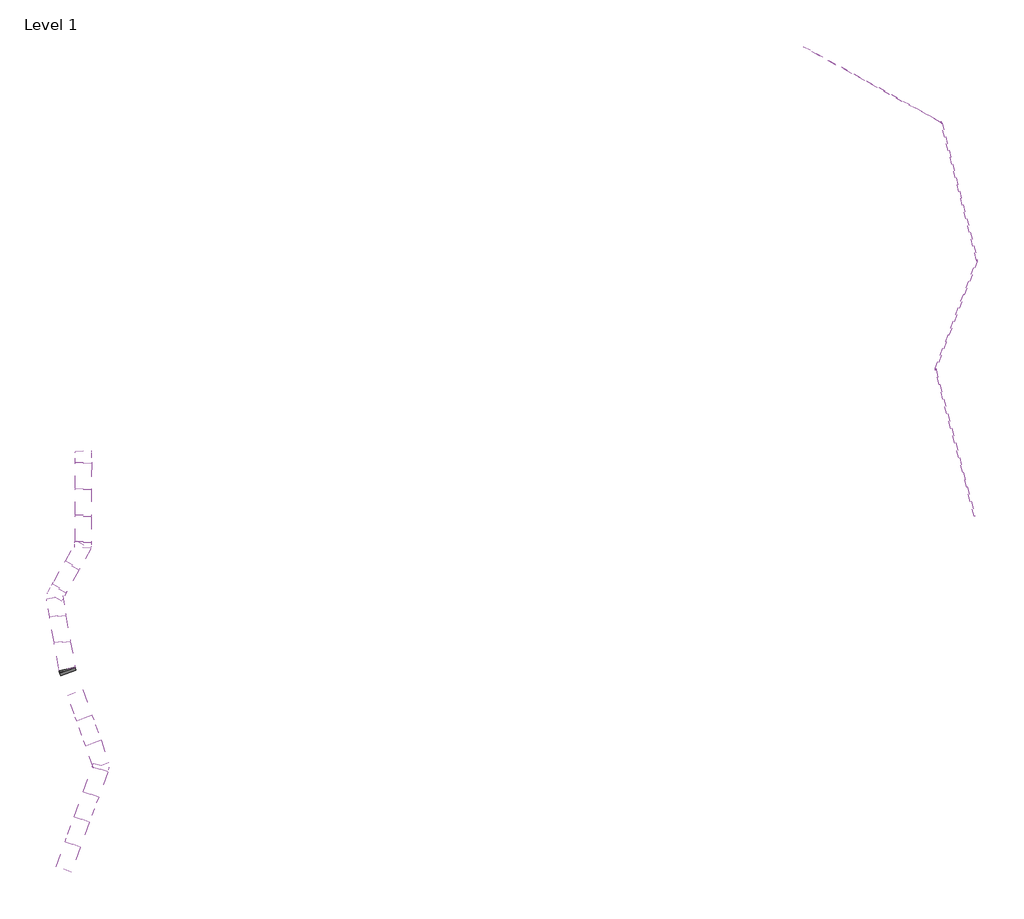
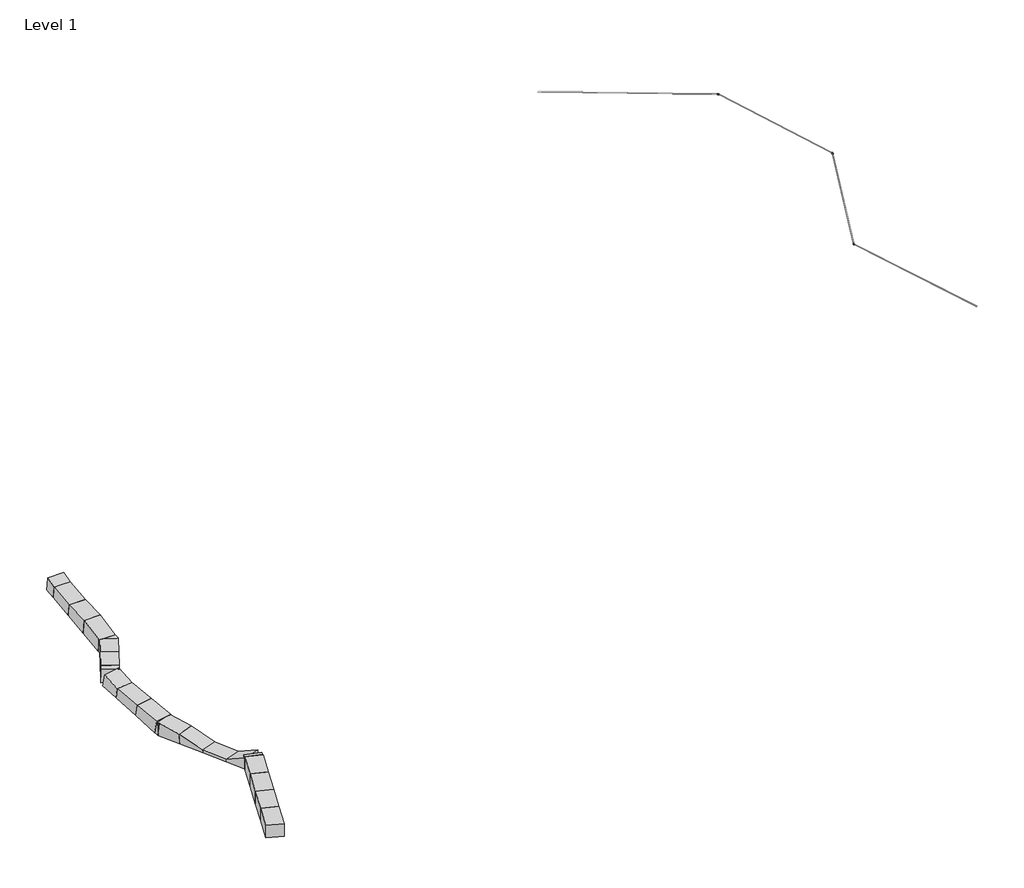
# One storey: 21 proxies, 4 pipe segments, 3 pipe fittings.
"""IFC4 building model written with IfcOpenShell, lengths in millimetres."""

import ifcopenshell
import ifcopenshell.guid

model = None  # the IFC model being written
_history = None  # IfcOwnerHistory: only IFC2X3 demands one
_inside = {}  # id of a spatial element -> (the spatial element, [elements in it])
_under = {}  # id of a project, library or spatial element -> (it, [spatial elements below it])
_declared = {}  # id of a project -> (the project, [libraries it declares])
_typed = {}  # id of a type object -> (the type object, [elements of that type])
_made_of = {}  # id of a material, layer set ... -> (it, [elements and type objects made of it])


def new_model(schema):
    """Start an empty IFC model of exactly this schema.

    Asked for "IFC4X3", IfcOpenShell would pick the latest addendum, in which some entities
    have other attributes; the version numbers below select the first issue.
    IFC2X3 requires an IfcOwnerHistory on every rooted entity: one is made here for all.
    """
    global model, _history
    if schema == "IFC4X3":
        model = ifcopenshell.file(schema_version=(4, 3, 0, 0))
    else:
        model = ifcopenshell.file(schema=schema)
    _inside.clear()
    _under.clear()
    _declared.clear()
    _typed.clear()
    _made_of.clear()
    _history = None
    if model.schema == "IFC2X3":
        org = make("IfcOrganization", Name="unknown")
        user = make(
            "IfcPersonAndOrganization",
            ThePerson=make("IfcPerson", FamilyName="unknown"),
            TheOrganization=org,
        )
        app = make(
            "IfcApplication",
            ApplicationDeveloper=org,
            Version="unknown",
            ApplicationFullName="unknown",
            ApplicationIdentifier="unknown",
        )
        _history = make(
            "IfcOwnerHistory",
            OwningUser=user,
            OwningApplication=app,
            ChangeAction="ADDED",
            CreationDate=0,
        )
    return model


def make(cls, **values):
    """One entity of the class cls with the attributes given. An attribute that is None is left unset."""
    return model.create_entity(
        cls, **{name: value for name, value in values.items() if value is not None}
    )


def rooted(cls, **values):
    """An entity with a GlobalId (a new one), such as an element, a storey or a relation."""
    return make(cls, GlobalId=ifcopenshell.guid.new(), OwnerHistory=_history, **values)


def si_unit(unit_type, name, prefix=None):
    """IfcSIUnit, for example si_unit("LENGTHUNIT", "METRE", prefix="MILLI")."""
    return make("IfcSIUnit", UnitType=unit_type, Prefix=prefix, Name=name)


def assignment(units):
    """IfcUnitAssignment: the units of a project."""
    return None if units is None else make("IfcUnitAssignment", Units=units)


def point(xyz):
    """IfcCartesianPoint."""
    return None if xyz is None else make("IfcCartesianPoint", Coordinates=xyz)


def direction(xyz):
    """IfcDirection."""
    return None if xyz is None else make("IfcDirection", DirectionRatios=xyz)


def frame(location, z_axis=None, x_axis=None):
    """IfcAxis2Placement3D, a coordinate frame: its origin and axes. An axis left out is left unset."""
    return make(
        "IfcAxis2Placement3D",
        Location=point(location),
        Axis=direction(z_axis),
        RefDirection=direction(x_axis),
    )


def frame_2d(location, x_axis=None):
    """IfcAxis2Placement2D, a coordinate frame in the plane: its origin and x axis."""
    return make(
        "IfcAxis2Placement2D", Location=point(location), RefDirection=direction(x_axis)
    )


def origin():
    """The frame at (0, 0, 0) with its axes left unset."""
    return frame((0.0, 0.0, 0.0))


def place(relative_to, where):
    """IfcLocalPlacement: puts the frame where relative to a parent placement (None: the world)."""
    return make(
        "IfcLocalPlacement", PlacementRelTo=relative_to, RelativePlacement=where
    )


def context(
    kind, dimensions, precision=None, world=None, true_north=None, identifier=None
):
    """IfcGeometricRepresentationContext, for example the 3D "Model" context."""
    return make(
        "IfcGeometricRepresentationContext",
        ContextIdentifier=identifier,
        ContextType=kind,
        CoordinateSpaceDimension=dimensions,
        Precision=precision,
        WorldCoordinateSystem=world,
        TrueNorth=true_north,
    )


def project(units=None, contexts=None):
    """IfcProject with its units and contexts."""
    return rooted(
        "IfcProject",
        Name="project",
        RepresentationContexts=contexts,
        UnitsInContext=assignment(units),
    )


def spatial(cls, under=None, at=None, **own):
    """A site, building, storey or space (cls), placed at a placement, below another one or the project."""
    s = rooted(cls, ObjectPlacement=at, **own)
    if under is not None:
        _under.setdefault(under.id(), (under, []))[1].append(s)
    return s


def polyline(points):
    """IfcPolyline through the points."""
    return make("IfcPolyline", Points=[point(p) for p in points])


def circle_curve(where, radius):
    """IfcCircle in the frame where."""
    return make("IfcCircle", Position=where, Radius=radius)


def ellipse_curve(where, semi_axis1, semi_axis2):
    """IfcEllipse in the frame where."""
    return make(
        "IfcEllipse", Position=where, SemiAxis1=semi_axis1, SemiAxis2=semi_axis2
    )


def trimmed(basis, trim1, trim2, sense, master):
    """IfcTrimmedCurve: the piece of a basis curve between two trims."""
    return make(
        "IfcTrimmedCurve",
        BasisCurve=basis,
        Trim1=trim1,
        Trim2=trim2,
        SenseAgreement=sense,
        MasterRepresentation=master,
    )


def segment(curve, same_sense, transition):
    """IfcCompositeCurveSegment."""
    return make(
        "IfcCompositeCurveSegment",
        Transition=transition,
        SameSense=same_sense,
        ParentCurve=curve,
    )


def composite_curve(segments, self_intersect=None):
    """IfcCompositeCurve: segments joined end to end."""
    return make("IfcCompositeCurve", Segments=segments, SelfIntersect=self_intersect)


def outline(outer, holes=None, kind="AREA"):
    """IfcArbitraryClosedProfileDef: a profile drawn as a closed curve; with holes, ...WithVoids."""
    if holes is None:
        return make("IfcArbitraryClosedProfileDef", ProfileType=kind, OuterCurve=outer)
    return make(
        "IfcArbitraryProfileDefWithVoids",
        ProfileType=kind,
        OuterCurve=outer,
        InnerCurves=holes,
    )


def extrude(swept, where, along, depth):
    """IfcExtrudedAreaSolid: the profile swept, set in the frame where, extruded along a direction by depth."""
    return make(
        "IfcExtrudedAreaSolid",
        SweptArea=swept,
        Position=where,
        ExtrudedDirection=direction(along),
        Depth=depth,
    )


def shape(context_of_items, identifier, shape_type, items):
    """IfcShapeRepresentation: the items that make up one representation, for example the "Body"."""
    return make(
        "IfcShapeRepresentation",
        ContextOfItems=context_of_items,
        RepresentationIdentifier=identifier,
        RepresentationType=shape_type,
        Items=items,
    )


def source(mapping_origin, context_of_items, identifier, shape_type, items):
    """IfcRepresentationMap: a shape defined once, which mapped items show again and again."""
    return make(
        "IfcRepresentationMap",
        MappingOrigin=mapping_origin,
        MappedRepresentation=shape(context_of_items, identifier, shape_type, items),
    )


def transform(
    local_origin,
    x_axis=None,
    y_axis=None,
    z_axis=None,
    scale=None,
    scale2=None,
    scale3=None,
    uniform=True,
):
    """IfcCartesianTransformationOperator3D, or its non-uniform kind. x_axis, y_axis, z_axis: its Axis1, 2, 3."""
    if uniform:
        return make(
            "IfcCartesianTransformationOperator3D",
            Axis1=direction(x_axis),
            Axis2=direction(y_axis),
            LocalOrigin=point(local_origin),
            Scale=scale,
            Axis3=direction(z_axis),
        )
    return make(
        "IfcCartesianTransformationOperator3DnonUniform",
        Axis1=direction(x_axis),
        Axis2=direction(y_axis),
        LocalOrigin=point(local_origin),
        Scale=scale,
        Axis3=direction(z_axis),
        Scale2=scale2,
        Scale3=scale3,
    )


def mapped(mapping_source, mapping_target):
    """IfcMappedItem: shows the shape of a source again, moved by a transform."""
    return make(
        "IfcMappedItem", MappingSource=mapping_source, MappingTarget=mapping_target
    )


def made_of(thing, what):
    """Note that an element or type object is made of a material, layer set ...; save() writes the relation."""
    if what is not None:
        _made_of.setdefault(what.id(), (what, []))[1].append(thing)
    return thing


def element(
    cls,
    number,
    at=None,
    inside=None,
    cuts=None,
    type_object=None,
    material=None,
    context=None,
    identifier="Body",
    shape_type=None,
    held_by="IfcProductDefinitionShape",
    body=None,
    shapes=None,
    **own,
):
    """One element of the class cls, such as IfcWall. Its Tag is "e" and its number.

    at: its placement. inside: the storey or other place that contains it. cuts: it is an
    opening in that element (IfcRelVoidsElement). A single representation is given by context,
    identifier, shape_type and body (its items); several are given by shapes. held_by: the class
    of the entity that holds the representations. save() writes the other relations.
    """
    e = rooted(cls, Tag="e%d" % number, ObjectPlacement=at, **own)
    if body is not None:
        shapes = [shape(context, identifier, shape_type, body)]
    if shapes is not None:
        e.Representation = make(held_by, Representations=shapes)
    if inside is not None:
        _inside.setdefault(inside.id(), (inside, []))[1].append(e)
    if cuts is not None:
        rooted(
            "IfcRelVoidsElement", RelatingBuildingElement=cuts, RelatedOpeningElement=e
        )
    if type_object is not None:
        _typed.setdefault(type_object.id(), (type_object, []))[1].append(e)
    return made_of(e, material)


def aggregate(whole, parts):
    """IfcRelAggregates: a whole, such as a stair, and the parts it consists of."""
    return rooted("IfcRelAggregates", RelatingObject=whole, RelatedObjects=parts)


def save(model, path):
    """Write the relations noted so far, then the file.

    IfcRelAggregates (storeys below a building ...), IfcRelContainedInSpatialStructure (elements
    in a storey), IfcRelDefinesByType, IfcRelAssociatesMaterial and IfcRelDeclares: one each for
    every whole, place, type object, material and project.
    """
    for whole, parts in _under.values():
        aggregate(whole, parts)
    for where, things in _inside.values():
        rooted(
            "IfcRelContainedInSpatialStructure",
            RelatedElements=things,
            RelatingStructure=where,
        )
    for kind, things in _typed.values():
        rooted("IfcRelDefinesByType", RelatedObjects=things, RelatingType=kind)
    for what, things in _made_of.values():
        rooted("IfcRelAssociatesMaterial", RelatedObjects=things, RelatingMaterial=what)
    for by, libraries in _declared.values():
        rooted("IfcRelDeclares", RelatingContext=by, RelatedDefinitions=libraries)
    model.write(path)


def plane_surface(at):
    """IfcPlane: the flat surface through the origin of the frame at, square to its z axis."""
    return make("IfcPlane", Position=at)


def cylinder_surface(at, radius):
    """IfcCylindricalSurface: all points at the distance radius from the z axis of the frame at."""
    return make("IfcCylindricalSurface", Position=at, Radius=radius)


def revolved_surface(curve, axis_point, axis_direction):
    """IfcSurfaceOfRevolution: the curve turned about the line through axis_point along axis_direction."""
    return make(
        "IfcSurfaceOfRevolution",
        SweptCurve=make("IfcArbitraryOpenProfileDef", ProfileType="CURVE", Curve=curve),
        AxisPosition=make("IfcAxis1Placement", Location=point(axis_point), Axis=direction(axis_direction)),
    )


def advanced_brep(points, edges, surfaces, faces):
    """IfcAdvancedBrep: a solid bounded by faces that lie on surfaces and meet in shared edges.

    An edge is (start, end): straight between two places in points (the first is 0);
    or (start, end, curve); or (start, end, curve, False) where it runs against its curve.
    A face is (place in surfaces, loops), or (place, loops, False) where it looks against
    its surface's normal. A loop lists edges by number (the first is 1), with a minus sign
    where the edge is run from its end to its start. The first loop is the outer one.
    """
    corners = [point(p) for p in points]
    vertices = [make("IfcVertexPoint", VertexGeometry=c) for c in corners]
    made = []
    for start, end, *more in edges:
        made.append(
            make(
                "IfcEdgeCurve",
                EdgeStart=vertices[start],
                EdgeEnd=vertices[end],
                EdgeGeometry=more[0] if more else make("IfcPolyline", Points=[corners[start], corners[end]]),
                SameSense=more[1] if len(more) > 1 else True,
            )
        )
    hull = []
    for where, loops, *sense in faces:
        bounds = []
        for j, loop in enumerate(loops):
            ring = [make("IfcOrientedEdge", EdgeElement=made[abs(k) - 1], Orientation=k > 0) for k in loop]
            bounds.append(
                make(
                    "IfcFaceOuterBound" if j == 0 else "IfcFaceBound",
                    Bound=make("IfcEdgeLoop", EdgeList=ring),
                    Orientation=True,
                )
            )
        hull.append(make("IfcAdvancedFace", Bounds=bounds, FaceSurface=surfaces[where], SameSense=sense[0] if sense else True))
    return make("IfcAdvancedBrep", Outer=make("IfcClosedShell", CfsFaces=hull))


def generic_models_54ab8fa8(model_context):
    return source(origin(), model_context, "Body", "SweptSolid", [
        extrude(outline(polyline([(-331.4767857, 2622.295865), (0.0, 0.0), (-2086.3173788, -263.7253057), (-2368.281057, 1966.8749035), (-331.4767857, 2622.295865)])), frame((-1524.0, 0.0, 0.0), z_axis=(1.0, 0.0, 0.0), x_axis=(0.0, 1.0, 0.0)), (0.0, 0.0, 1.0), 3048.0),
    ])


def generic_models_d54b75d8(model_context):
    return source(origin(), model_context, "Body", "SweptSolid", [
        extrude(outline(polyline([(-256.8404028, 2243.0412163), (0.0, 0.0), (-4967.5401245, -568.8103265), (-5225.5335692, 1684.3006468), (-256.8404028, 2243.0412163)])), frame((-1524.0, 0.0, 0.0), z_axis=(1.0, 0.0, 0.0), x_axis=(0.0, 1.0, 0.0)), (0.0, 0.0, 1.0), 3048.0),
    ])


def generic_models_1954e40d(model_context):
    return source(origin(), model_context, "Body", "SweptSolid", [
        extrude(outline(polyline([(-257.9934447, 2253.1109733), (0.0, 0.0), (-4967.5401245, -568.8103265), (-5290.7636538, 2253.9686847), (-257.9934447, 2253.1109733)])), frame((-1524.0, 0.0, 0.0), z_axis=(1.0, 0.0, 0.0), x_axis=(0.0, 1.0, 0.0)), (0.0, 0.0, 1.0), 3048.0),
    ])


def generic_models_49b288b9(model_context):
    return source(origin(), model_context, "Body", "SweptSolid", [
        extrude(outline(polyline([(-323.2235293, 2822.7790112), (0.0, 0.0), (-4967.5401245, -568.8103265), (-5241.4069366, 1822.9261002), (-323.2235293, 2822.7790112)])), frame((-1524.0, 0.0, 0.0), z_axis=(1.0, 0.0, 0.0), x_axis=(0.0, 1.0, 0.0)), (0.0, 0.0, 1.0), 3048.0),
    ])


def generic_models_2d732e18(model_context):
    return source(origin(), model_context, "Body", "SweptSolid", [
        extrude(outline(polyline([(-232.8523237, 2391.6952453), (0.0, 0.0), (-956.6547775, -93.138659), (-1198.5912504, 2391.8625759), (-232.8523237, 2391.6952453)])), frame((-1524.0, 0.0, 0.0), z_axis=(1.0, 0.0, 0.0), x_axis=(0.0, 1.0, 0.0)), (0.0, 0.0, 1.0), 3048.0),
    ])


def generic_models_86367620(model_context):
    return source(origin(), model_context, "Body", "SweptSolid", [
        extrude(outline(polyline([(350.5223057, 2477.5251592), (0.0, 0.0), (-4242.5772274, 600.2433301), (-3928.004332, 2823.6746213), (350.5223057, 2477.5251592)])), frame((-1524.0, 0.0, 0.0), z_axis=(1.0, 0.0, 0.0), x_axis=(0.0, 1.0, 0.0)), (0.0, 0.0, 1.0), 3048.0),
    ])


def generic_models_b21d599f(model_context):
    return source(origin(), model_context, "Body", "SweptSolid", [
        extrude(outline(polyline([(322.8120898, 2223.2237037), (0.0, 0.0), (-4948.1114547, 718.4658012), (-4629.430297, 2913.2395599), (322.8120898, 2223.2237037)])), frame((-1524.0, 0.0, 0.0), z_axis=(1.0, 0.0, 0.0), x_axis=(0.0, 1.0, 0.0)), (0.0, 0.0, 1.0), 3048.0),
    ])


def generic_models_7f9f14d9(model_context):
    return source(origin(), model_context, "Body", "SweptSolid", [
        extrude(outline(polyline([(297.1975401, 2207.4614339), (0.0, 0.0), (-1755.5764216, 236.3588264), (-1427.6552062, 2672.0231198), (297.1975401, 2207.4614339)])), frame((-1524.0, 0.0, 0.0), z_axis=(1.0, 0.0, 0.0), x_axis=(0.0, 1.0, 0.0)), (0.0, 0.0, 1.0), 3048.0),
    ])


def generic_models_52e6286f(model_context):
    return source(origin(), model_context, "Body", "SweptSolid", [
        extrude(outline(polyline([(-402.0046557, 2418.8475547), (0.0, 0.0), (-3413.039822, -567.2362014), (-3741.9064263, 1411.542328), (-402.0046557, 2418.8475547)])), frame((-1524.0, 0.0, 0.0), z_axis=(1.0, 0.0, 0.0), x_axis=(0.0, 1.0, 0.0)), (0.0, 0.0, 1.0), 3048.0),
    ])


def generic_models_ac65de91(model_context):
    return source(origin(), model_context, "Body", "SweptSolid", [
        extrude(outline(polyline([(-338.2524365, 1970.9361102), (0.0, 0.0), (-4927.9539369, -845.736408), (-5302.5781994, 1337.1317905), (-338.2524365, 1970.9361102)])), frame((-1524.0, 0.0, 0.0), z_axis=(1.0, 0.0, 0.0), x_axis=(0.0, 1.0, 0.0)), (0.0, 0.0, 1.0), 3048.0),
    ])


def generic_models_e7ead3ed(model_context):
    return source(origin(), model_context, "Body", "SweptSolid", [
        extrude(outline(polyline([(-374.6242625, 2182.8681986), (0.0, 0.0), (-4927.9539369, -845.736408), (-5355.5962937, 1646.0586899), (-374.6242625, 2182.8681986)])), frame((-1524.0, 0.0, 0.0), z_axis=(1.0, 0.0, 0.0), x_axis=(0.0, 1.0, 0.0)), (0.0, 0.0, 1.0), 3048.0),
    ])


def generic_models_1521c593(model_context):
    return source(origin(), model_context, "Body", "SweptSolid", [
        extrude(outline(polyline([(-369.727485, 2501.1318773), (0.0, 0.0), (-714.1885188, -105.5742511), (-1073.02233, 2321.8641201), (-369.727485, 2501.1318773)])), frame((-1524.0, 0.0, 0.0), z_axis=(1.0, 0.0, 0.0), x_axis=(0.0, 1.0, 0.0)), (0.0, 0.0, 1.0), 3048.0),
    ])


def generic_models_a66134e2(model_context):
    return source(origin(), model_context, "Body", "SweptSolid", [
        extrude(outline(polyline([(230.102777, 2597.2198811), (0.0, 0.0), (-4521.0140052, 400.5428593), (-4353.4765722, 2291.5741526), (230.102777, 2597.2198811)])), frame((-1524.0, 0.0, 0.0), z_axis=(1.0, 0.0, 0.0), x_axis=(0.0, 1.0, 0.0)), (0.0, 0.0, 1.0), 3048.0),
    ])


def generic_models_5df4b443(model_context):
    return source(origin(), model_context, "Body", "SweptSolid", [
        extrude(outline(polyline([(174.9242437, 1890.9973148), (0.0, 0.0), (-4978.7439903, 460.5522282), (-4923.1197344, 1061.8714981), (174.9242437, 1890.9973148)])), frame((-1524.0, 0.0, 0.0), z_axis=(1.0, 0.0, 0.0), x_axis=(0.0, 1.0, 0.0)), (0.0, 0.0, 1.0), 3048.0),
    ])


def generic_models_5d5d0a57(model_context):
    return source(origin(), model_context, "Body", "SweptSolid", [
        extrude(outline(polyline([(55.6242559, 601.3192699), (0.0, 0.0), (-4978.7439903, 460.5522282), (-4935.6205658, 926.7327772), (55.6242559, 601.3192699)])), frame((-1524.0, 0.0, 0.0), z_axis=(1.0, 0.0, 0.0), x_axis=(0.0, 1.0, 0.0)), (0.0, 0.0, 1.0), 3048.0),
    ])


def generic_models_859ffe06(model_context):
    return source(origin(), model_context, "Body", "SweptSolid", [
        extrude(outline(polyline([(42.6700904, 466.4806596), (0.0, 0.0), (-4473.9479134, 409.2426081), (-4260.1759958, 2746.2534808), (42.6700904, 466.4806596)])), frame((-1524.0, 0.0, 0.0), z_axis=(1.0, 0.0, 0.0), x_axis=(0.0, 1.0, 0.0)), (0.0, 0.0, 1.0), 3048.0),
    ])


def generic_models_05e171b5(model_context):
    return source(origin(), model_context, "Body", "SweptSolid", [
        extrude(outline(polyline([(25.4772737, 2471.8799229), (0.0, 0.0), (-744.2565307, 7.6709338), (-717.9353468, 2561.4294921), (25.4772737, 2471.8799229)])), frame((-1524.0, 0.0, 0.0), z_axis=(1.0, 0.0, 0.0), x_axis=(0.0, 1.0, 0.0)), (0.0, 0.0, 1.0), 3048.0),
    ])


def generic_models_48de9235(model_context):
    return source(origin(), model_context, "Body", "SweptSolid", [
        extrude(outline(polyline([(5.6455658, 2554.2775402), (0.0, 0.0), (-4999.9877947, 11.0511719), (-4994.3664356, 2554.3766569), (5.6455658, 2554.2775402)])), frame((-1524.0, 0.0, 0.0), z_axis=(1.0, 0.0, 0.0), x_axis=(0.0, 1.0, 0.0)), (0.0, 0.0, 1.0), 3048.0),
    ])


def generic_models_ed149499(model_context):
    return source(origin(), model_context, "Body", "SweptSolid", [
        extrude(outline(polyline([(5.6213592, 2543.3254849), (0.0, 0.0), (-4999.9877947, 11.0511719), (-4994.3906292, 2543.4304919), (5.6213592, 2543.3254849)])), frame((-1524.0, 0.0, 0.0), z_axis=(1.0, 0.0, 0.0), x_axis=(0.0, 1.0, 0.0)), (0.0, 0.0, 1.0), 3048.0),
    ])


def generic_models_5c436288(model_context):
    return source(origin(), model_context, "Body", "SweptSolid", [
        extrude(outline(polyline([(5.5971655, 2532.3793199), (0.0, 0.0), (-4999.9877947, 11.0511719), (-4994.41481, 2532.4901273), (5.5971655, 2532.3793199)])), frame((-1524.0, 0.0, 0.0), z_axis=(1.0, 0.0, 0.0), x_axis=(0.0, 1.0, 0.0)), (0.0, 0.0, 1.0), 3048.0),
    ])


def generic_models_79558771(model_context):
    return source(origin(), model_context, "Body", "SweptSolid", [
        extrude(outline(polyline([(5.5729847, 2521.4389553), (0.0, 0.0), (-4999.9877947, 11.0511719), (-4994.4389783, 2521.555473), (5.5729847, 2521.4389553)])), frame((-1524.0, 0.0, 0.0), z_axis=(1.0, 0.0, 0.0), x_axis=(0.0, 1.0, 0.0)), (0.0, 0.0, 1.0), 3048.0),
    ])


def m_elbow_pvc_sch_40_standard_e77ed494(model_context):
    return source(origin(), model_context, "Body", "AdvancedBrep", [
        advanced_brep(
        [(-177.8, -92.075, 0.0), (-177.8, 92.075, 0.0), (-88.9, -92.075, 0.0), (-88.9, 92.075, 0.0), (-6.4070482, 127.8278739, 0.0), (127.9739502, 1.9192969, 0.0), (188.7574012, 66.7928823, 0.0), (54.3764028, 192.7014594, 0.0)],
        [
            (0, 1, circle_curve(frame((-177.8, 0.0, 0.0), z_axis=(-1.0, 0.0, 0.0), x_axis=(0.0, 1.0, 0.0)), 92.075)),
            (1, 0, circle_curve(frame((-177.8, 0.0, 0.0), z_axis=(-1.0, 0.0, 0.0), x_axis=(0.0, 1.0, 0.0)), 92.075)),
            (0, 2),
            (2, 3, circle_curve(frame((-88.9, 0.0, 0.0), z_axis=(-1.0, 0.0, 0.0), x_axis=(0.0, 1.0, 0.0)), 92.075)),
            (3, 1),
            (3, 2, circle_curve(frame((-88.9, 0.0, 0.0), z_axis=(-1.0, 0.0, 0.0), x_axis=(0.0, 1.0, 0.0)), 92.075)),
            (4, 3, circle_curve(frame((-88.9, 205.1198297, 0.0), z_axis=(0.0, 0.0, -1.0), x_axis=(0.0, -1.0, 0.0)), 113.0448297)),
            (2, 5, circle_curve(frame((-88.9, 205.1198297, 0.0), z_axis=(0.0, 0.0, 1.0), x_axis=(0.0, -1.0, 0.0)), 297.1948297)),
            (5, 4, circle_curve(frame((60.783451, 64.8735854, 0.0), z_axis=(-0.6837283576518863, -0.7297366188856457, 0.0), x_axis=(-0.7297366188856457, 0.6837283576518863, 0.0)), 92.075)),
            (4, 5, circle_curve(frame((60.783451, 64.8735854, 0.0), z_axis=(-0.6837283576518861, -0.729736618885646, 0.0), x_axis=(-0.729736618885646, 0.6837283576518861, 0.0)), 92.075)),
            (6, 7, circle_curve(frame((121.566902, 129.7471708, 0.0), z_axis=(0.6837283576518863, 0.7297366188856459, 0.0), x_axis=(-0.7297366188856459, 0.6837283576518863, 0.0)), 92.075)),
            (7, 6, circle_curve(frame((121.566902, 129.7471708, 0.0), z_axis=(0.6837283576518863, 0.7297366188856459, 0.0), x_axis=(-0.7297366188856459, 0.6837283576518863, 0.0)), 92.075)),
            (5, 6),
            (7, 4),
        ],
        [
            plane_surface(frame((-177.8, 0.0, 0.0), z_axis=(-1.0, 0.0, 0.0), x_axis=(0.0, 0.0, 1.0))),
            cylinder_surface(frame((-177.8, 0.0, 0.0), z_axis=(-1.0, 0.0, 0.0), x_axis=(0.0, 1.0, 0.0)), 92.075),
            revolved_surface(trimmed(ellipse_curve(frame((-88.9, 0.0, 0.0), z_axis=(-1.0, 0.0, 0.0), x_axis=(0.0, 1.0, 0.0)), 92.075, 92.075), [point((-88.9, -92.075, 0.0))], [point((-88.9, 92.075, 0.0))], True, "CARTESIAN"), (-88.9, 205.1198297, 0.0), (0.0, 0.0, 1.0)),
            revolved_surface(trimmed(ellipse_curve(frame((-88.9, 0.0, 0.0), z_axis=(-1.0, 0.0, 0.0), x_axis=(0.0, 1.0, 0.0)), 92.075, 92.075), [point((-88.9, 92.075, 0.0))], [point((-88.9, -92.075, 0.0))], True, "CARTESIAN"), (-88.9, 205.1198297, 0.0), (0.0, 0.0, 1.0)),
            plane_surface(frame((121.566902, 129.7471708, 0.0), z_axis=(0.6837283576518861, 0.729736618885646, 0.0), x_axis=(0.0, 0.0, 1.0))),
            cylinder_surface(frame((60.783451, 64.8735854, 0.0), z_axis=(-0.6837283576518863, -0.7297366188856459, 0.0), x_axis=(-0.7297366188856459, 0.6837283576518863, 0.0)), 92.075),
        ],
        [
            (0, [[1, 2]]),
            (1, [[-1, 3, 4, 5]]),
            (1, [[-2, -5, 6, -3]]),
            (2, [[7, -4, 8, 9]]),
            (3, [[-8, -6, -7, 10]]),
            (4, [[11, 12]]),
            (5, [[-9, 13, -12, 14]]),
            (5, [[-10, -14, -11, -13]]),
        ],
    ),
    ])


def m_elbow_pvc_sch_40_standard_4b98759f(model_context):
    return source(origin(), model_context, "Body", "AdvancedBrep", [
        advanced_brep(
        [(-133.35, -92.075, 0.0), (-133.35, 92.075, 0.0), (-44.45, -92.075, 0.0), (-44.45, 92.075, 0.0), (-20.4013945, 100.1867817, 0.0), (91.1384438, -46.3399633, 0.0), (161.875493, 7.5068552, 0.0), (50.3356548, 154.0336002, 0.0)],
        [
            (0, 1, circle_curve(frame((-133.35, 0.0, 0.0), z_axis=(-1.0, 0.0, 0.0), x_axis=(0.0, 1.0, 0.0)), 92.075)),
            (1, 0, circle_curve(frame((-133.35, 0.0, 0.0), z_axis=(-1.0, 0.0, 0.0), x_axis=(0.0, 1.0, 0.0)), 92.075)),
            (0, 2),
            (2, 3, circle_curve(frame((-44.45, 0.0, 0.0), z_axis=(-1.0, 0.0, 0.0), x_axis=(0.0, 1.0, 0.0)), 92.075)),
            (3, 1),
            (3, 2, circle_curve(frame((-44.45, 0.0, 0.0), z_axis=(-1.0, 0.0, 0.0), x_axis=(0.0, 1.0, 0.0)), 92.075)),
            (4, 3, circle_curve(frame((-44.45, 131.7787577, 0.0), z_axis=(0.0, 0.0, -1.0), x_axis=(0.0, -1.0, 0.0)), 39.7037577)),
            (2, 5, circle_curve(frame((-44.45, 131.7787577, 0.0), z_axis=(0.0, 0.0, 1.0), x_axis=(0.0, -1.0, 0.0)), 223.8537577)),
            (5, 4, circle_curve(frame((35.3685246, 26.9234092, 0.0), z_axis=(-0.7956923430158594, -0.6057009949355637, 0.0), x_axis=(-0.6057009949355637, 0.7956923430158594, 0.0)), 92.075)),
            (4, 5, circle_curve(frame((35.3685246, 26.9234092, 0.0), z_axis=(-0.7956923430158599, -0.6057009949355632, 0.0), x_axis=(-0.6057009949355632, 0.7956923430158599, 0.0)), 92.075)),
            (6, 7, circle_curve(frame((106.1055739, 80.7702277, 0.0), z_axis=(0.7956923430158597, 0.6057009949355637, 0.0), x_axis=(-0.6057009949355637, 0.7956923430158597, 0.0)), 92.075)),
            (7, 6, circle_curve(frame((106.1055739, 80.7702277, 0.0), z_axis=(0.7956923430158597, 0.6057009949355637, 0.0), x_axis=(-0.6057009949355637, 0.7956923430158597, 0.0)), 92.075)),
            (5, 6),
            (7, 4),
        ],
        [
            plane_surface(frame((-133.35, 0.0, 0.0), z_axis=(-1.0, 0.0, 0.0), x_axis=(0.0, 0.0, 1.0))),
            cylinder_surface(frame((-133.35, 0.0, 0.0), z_axis=(-1.0, 0.0, 0.0), x_axis=(0.0, 1.0, 0.0)), 92.075),
            revolved_surface(trimmed(ellipse_curve(frame((-44.45, 0.0, 0.0), z_axis=(-1.0, 0.0, 0.0), x_axis=(0.0, 1.0, 0.0)), 92.075, 92.075), [point((-44.45, -92.075, 0.0))], [point((-44.45, 92.075, 0.0))], True, "CARTESIAN"), (-44.45, 131.7787577, 0.0), (0.0, 0.0, 1.0)),
            revolved_surface(trimmed(ellipse_curve(frame((-44.45, 0.0, 0.0), z_axis=(-1.0, 0.0, 0.0), x_axis=(0.0, 1.0, 0.0)), 92.075, 92.075), [point((-44.45, 92.075, 0.0))], [point((-44.45, -92.075, 0.0))], True, "CARTESIAN"), (-44.45, 131.7787577, 0.0), (0.0, 0.0, 1.0)),
            plane_surface(frame((106.1055739, 80.7702277, 0.0), z_axis=(0.7956923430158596, 0.6057009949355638, 0.0), x_axis=(0.0, 0.0, 1.0))),
            cylinder_surface(frame((35.3685246, 26.9234092, 0.0), z_axis=(-0.7956923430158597, -0.6057009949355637, 0.0), x_axis=(-0.6057009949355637, 0.7956923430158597, 0.0)), 92.075),
        ],
        [
            (0, [[1, 2]]),
            (1, [[-1, 3, 4, 5]]),
            (1, [[-2, -5, 6, -3]]),
            (2, [[7, -4, 8, 9]]),
            (3, [[-8, -6, -7, 10]]),
            (4, [[11, 12]]),
            (5, [[-9, 13, -12, 14]]),
            (5, [[-10, -14, -11, -13]]),
        ],
    ),
    ])


def m_elbow_pvc_sch_40_standard_30eb8c42(model_context):
    return source(origin(), model_context, "Body", "AdvancedBrep", [
        advanced_brep(
        [(-133.35, -92.075, 0.0), (-133.35, 92.075, 0.0), (-44.45, -92.075, 0.0), (-44.45, 92.075, 0.0), (-20.8933516, 100.0853435, 0.0), (91.3650055, -45.8916539, 0.0), (161.8366594, 8.3020358, 0.0), (49.5783023, 154.2790331, 0.0)],
        [
            (0, 1, circle_curve(frame((-133.35, 0.0, 0.0), z_axis=(-1.0, 0.0, 0.0), x_axis=(0.0, 1.0, 0.0)), 92.075)),
            (1, 0, circle_curve(frame((-133.35, 0.0, 0.0), z_axis=(-1.0, 0.0, 0.0), x_axis=(0.0, 1.0, 0.0)), 92.075)),
            (0, 2),
            (2, 3, circle_curve(frame((-44.45, 0.0, 0.0), z_axis=(-1.0, 0.0, 0.0), x_axis=(0.0, 1.0, 0.0)), 92.075)),
            (3, 1),
            (3, 2, circle_curve(frame((-44.45, 0.0, 0.0), z_axis=(-1.0, 0.0, 0.0), x_axis=(0.0, 1.0, 0.0)), 92.075)),
            (4, 3, circle_curve(frame((-44.45, 130.7176179, 0.0), z_axis=(0.0, 0.0, -1.0), x_axis=(0.0, -1.0, 0.0)), 38.6426179)),
            (2, 5, circle_curve(frame((-44.45, 130.7176179, 0.0), z_axis=(0.0, 0.0, 1.0), x_axis=(0.0, -1.0, 0.0)), 222.7926179)),
            (5, 4, circle_curve(frame((35.2358269, 27.0968448, 0.0), z_axis=(-0.7927070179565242, -0.6096028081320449, 0.0), x_axis=(-0.6096028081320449, 0.7927070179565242, 0.0)), 92.075)),
            (4, 5, circle_curve(frame((35.2358269, 27.0968448, 0.0), z_axis=(-0.7927070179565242, -0.6096028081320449, 0.0), x_axis=(-0.6096028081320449, 0.7927070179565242, 0.0)), 92.075)),
            (6, 7, circle_curve(frame((105.7074808, 81.2905345, 0.0), z_axis=(0.7927070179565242, 0.609602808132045, 0.0), x_axis=(-0.609602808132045, 0.7927070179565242, 0.0)), 92.075)),
            (7, 6, circle_curve(frame((105.7074808, 81.2905345, 0.0), z_axis=(0.7927070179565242, 0.609602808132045, 0.0), x_axis=(-0.609602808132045, 0.7927070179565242, 0.0)), 92.075)),
            (5, 6),
            (7, 4),
        ],
        [
            plane_surface(frame((-133.35, 0.0, 0.0), z_axis=(-1.0, 0.0, 0.0), x_axis=(0.0, 0.0, 1.0))),
            cylinder_surface(frame((-133.35, 0.0, 0.0), z_axis=(-1.0, 0.0, 0.0), x_axis=(0.0, 1.0, 0.0)), 92.075),
            revolved_surface(trimmed(ellipse_curve(frame((-44.45, 0.0, 0.0), z_axis=(-1.0, 0.0, 0.0), x_axis=(0.0, 1.0, 0.0)), 92.075, 92.075), [point((-44.45, -92.075, 0.0))], [point((-44.45, 92.075, 0.0))], True, "CARTESIAN"), (-44.45, 130.7176179, 0.0), (0.0, 0.0, 1.0)),
            revolved_surface(trimmed(ellipse_curve(frame((-44.45, 0.0, 0.0), z_axis=(-1.0, 0.0, 0.0), x_axis=(0.0, 1.0, 0.0)), 92.075, 92.075), [point((-44.45, 92.075, 0.0))], [point((-44.45, -92.075, 0.0))], True, "CARTESIAN"), (-44.45, 130.7176179, 0.0), (0.0, 0.0, 1.0)),
            plane_surface(frame((105.7074808, 81.2905345, 0.0), z_axis=(0.7927070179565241, 0.6096028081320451, 0.0), x_axis=(0.0, 0.0, 1.0))),
            cylinder_surface(frame((35.2358269, 27.0968448, 0.0), z_axis=(-0.7927070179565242, -0.609602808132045, 0.0), x_axis=(-0.609602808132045, 0.7927070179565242, 0.0)), 92.075),
        ],
        [
            (0, [[1, 2]]),
            (1, [[-1, 3, 4, 5]]),
            (1, [[-2, -5, 6, -3]]),
            (2, [[7, -4, 8, 9]]),
            (3, [[-8, -6, -7, 10]]),
            (4, [[11, 12]]),
            (5, [[-9, 13, -12, 14]]),
            (5, [[-10, -14, -11, -13]]),
        ],
    ),
    ])


model = new_model("IFC4")

# Units and contexts
model_context = context("Model", 3, world=origin())
ifc_project = project(units=[si_unit("LENGTHUNIT", "METRE", prefix="MILLI")], contexts=[model_context])

# Site, building, storey
site = spatial("IfcSite", under=ifc_project)
building = spatial("IfcBuilding", under=site)
storey = spatial("IfcBuildingStorey", under=building, Name="Level 1", Elevation=0.0)

# Proxies
placement = place(None, origin())
generic_models_shape = generic_models_54ab8fa8(model_context)
element("IfcBuildingElementProxy", 1, Name="Excavation FamilySP : Excavation FamilySP", ObjectType="Excavation FamilySP : Excavation FamilySP", at=placement, inside=storey, context=model_context, shape_type="MappedRepresentation", body=[
    mapped(generic_models_shape, transform((-71713.777624, -348.1036014, 4029.8509306), x_axis=(0.9997036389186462, 0.02434408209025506, 0.0), y_axis=(-0.02434408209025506, 0.9997036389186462, 0.0), z_axis=(0.0, 0.0, 1.0))),
])
generic_models_2_shape = generic_models_d54b75d8(model_context)
element("IfcBuildingElementProxy", 2, Name="Excavation FamilySP : Excavation FamilySP", ObjectType="Excavation FamilySP : Excavation FamilySP", at=placement, inside=storey, context=model_context, shape_type="MappedRepresentation", body=[
    mapped(generic_models_2_shape, transform((-71662.9881425, -2433.8026769, 3766.1256249), x_axis=(0.9999929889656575, -0.003744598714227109, 0.0), y_axis=(0.003744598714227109, 0.9999929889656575, 0.0), z_axis=(0.0, 0.0, 1.0))),
])
generic_models_3_shape = generic_models_1954e40d(model_context)
element("IfcBuildingElementProxy", 3, Name="Excavation FamilySP : Excavation FamilySP", ObjectType="Excavation FamilySP : Excavation FamilySP", at=placement, inside=storey, context=model_context, shape_type="MappedRepresentation", body=[
    mapped(generic_models_3_shape, transform((-71681.5895869, -7401.3079738, 3197.3152984), x_axis=(0.9999929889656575, -0.0037445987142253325, 0.0), y_axis=(0.0037445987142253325, 0.9999929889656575, 0.0), z_axis=(0.0, 0.0, 1.0))),
])
generic_models_4_shape = generic_models_49b288b9(model_context)
element("IfcBuildingElementProxy", 4, Name="Excavation FamilySP : Excavation FamilySP", ObjectType="Excavation FamilySP : Excavation FamilySP", at=placement, inside=storey, context=model_context, shape_type="MappedRepresentation", body=[
    mapped(generic_models_4_shape, transform((-71700.1910312, -12368.8132707, 2628.5049719), x_axis=(0.9999929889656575, -0.003744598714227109, 0.0), y_axis=(0.003744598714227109, 0.9999929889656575, 0.0), z_axis=(0.0, 0.0, 1.0))),
])
generic_models_5_shape = generic_models_2d732e18(model_context)
element("IfcBuildingElementProxy", 5, Name="Excavation FamilySP : Excavation FamilySP", ObjectType="Excavation FamilySP : Excavation FamilySP", at=placement, inside=storey, context=model_context, shape_type="MappedRepresentation", body=[
    mapped(generic_models_5_shape, transform((-71718.7924756, -17336.3185676, 2059.6946454), x_axis=(0.9992781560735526, -0.03798903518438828, 0.0), y_axis=(0.03798903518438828, 0.9992781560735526, 0.0), z_axis=(0.0, 0.0, 1.0))),
])
generic_models_6_shape = generic_models_86367620(model_context)
element("IfcBuildingElementProxy", 6, Name="Excavation FamilySP : Excavation FamilySP", ObjectType="Excavation FamilySP : Excavation FamilySP", at=placement, inside=storey, context=model_context, shape_type="MappedRepresentation", body=[
    mapped(generic_models_6_shape, transform((-71755.1348676, -18292.2827897, 1966.5559864), x_axis=(0.8736395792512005, -0.4865736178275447, 0.0), y_axis=(0.4865736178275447, 0.8736395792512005, 0.0), z_axis=(0.0, 0.0, 1.0))),
])
generic_models_7_shape = generic_models_b21d599f(model_context)
element("IfcBuildingElementProxy", 7, Name="Excavation FamilySP : Excavation FamilySP", ObjectType="Excavation FamilySP : Excavation FamilySP", at=placement, inside=storey, context=model_context, shape_type="MappedRepresentation", body=[
    mapped(generic_models_7_shape, transform((-73819.4610181, -21998.7661736, 2566.7993165), x_axis=(0.8699530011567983, -0.4931346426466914, 0.0), y_axis=(0.4931346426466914, 0.8699530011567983, 0.0), z_axis=(0.0, 0.0, 1.0))),
])
generic_models_8_shape = generic_models_7f9f14d9(model_context)
element("IfcBuildingElementProxy", 8, Name="Excavation FamilySP : Excavation FamilySP", ObjectType="Excavation FamilySP : Excavation FamilySP", at=placement, inside=storey, context=model_context, shape_type="MappedRepresentation", body=[
    mapped(generic_models_8_shape, transform((-76259.5461921, -26303.3905837, 3285.2651177), x_axis=(0.8814634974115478, -0.4722521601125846, 0.0), y_axis=(0.4722521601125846, 0.8814634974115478, 0.0), z_axis=(0.0, 0.0, 1.0))),
])
generic_models_9_shape = generic_models_52e6286f(model_context)
element("IfcBuildingElementProxy", 9, Name="Excavation FamilySP : Excavation FamilySP", ObjectType="Excavation FamilySP : Excavation FamilySP", at=placement, inside=storey, context=model_context, shape_type="MappedRepresentation", body=[
    mapped(generic_models_9_shape, transform((-77088.6209494, -27850.8671163, 3521.6239441), x_axis=(0.986608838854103, 0.16310425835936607, 0.0), y_axis=(-0.16310425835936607, 0.986608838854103, 0.0), z_axis=(0.0, 0.0, 1.0))),
])
generic_models_10_shape = generic_models_ac65de91(model_context)
element("IfcBuildingElementProxy", 10, Name="Excavation FamilySP : Excavation FamilySP", ObjectType="Excavation FamilySP : Excavation FamilySP", at=placement, inside=storey, context=model_context, shape_type="MappedRepresentation", body=[
    mapped(generic_models_10_shape, transform((-76531.9396205, -31218.2023721, 2954.3877427), x_axis=(0.984516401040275, 0.17529248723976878, 0.0), y_axis=(-0.17529248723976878, 0.984516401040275, 0.0), z_axis=(0.0, 0.0, 1.0))),
])
generic_models_11_shape = generic_models_e7ead3ed(model_context)
element("IfcBuildingElementProxy", 11, Name="Excavation FamilySP : Excavation FamilySP", ObjectType="Excavation FamilySP : Excavation FamilySP", at=placement, inside=storey, context=model_context, shape_type="MappedRepresentation", body=[
    mapped(generic_models_11_shape, transform((-75668.1063179, -36069.8538465, 2108.6513347), x_axis=(0.9845164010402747, 0.17529248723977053, 0.0), y_axis=(-0.17529248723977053, 0.9845164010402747, 0.0), z_axis=(0.0, 0.0, 1.0))),
])
generic_models_12_shape = generic_models_1521c593(model_context)
element("IfcBuildingElementProxy", 12, Name="Excavation FamilySP : Excavation FamilySP", ObjectType="Excavation FamilySP : Excavation FamilySP", at=placement, inside=storey, context=model_context, shape_type="MappedRepresentation", body=[
    mapped(generic_models_12_shape, transform((-74804.2730153, -40921.505321, 1262.9149267), x_axis=(0.9815860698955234, 0.19102038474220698, 0.0), y_axis=(-0.19102038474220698, 0.9815860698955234, 0.0), z_axis=(0.0, 0.0, 1.0))),
])
generic_models_13_shape = generic_models_a66134e2(model_context)
element("IfcBuildingElementProxy", 13, Name="Excavation FamilySP : Excavation FamilySP", ObjectType="Excavation FamilySP : Excavation FamilySP", at=placement, inside=storey, context=model_context, shape_type="MappedRepresentation", body=[
    mapped(generic_models_13_shape, transform((-74667.8484497, -41622.5428222, 1157.3406756), x_axis=(0.9420364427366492, 0.33551056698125, 0.0), y_axis=(-0.33551056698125, 0.9420364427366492, 0.0), z_axis=(0.0, 0.0, 1.0))),
])
generic_models_14_shape = generic_models_5df4b443(model_context)
element("IfcBuildingElementProxy", 14, Name="Excavation FamilySP : Excavation FamilySP", ObjectType="Excavation FamilySP : Excavation FamilySP", at=placement, inside=storey, context=model_context, shape_type="MappedRepresentation", body=[
    mapped(generic_models_14_shape, transform((-73151.0004774, -45881.5027733, 1557.8835348), x_axis=(0.9412392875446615, 0.3377404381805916, 0.0), y_axis=(-0.3377404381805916, 0.9412392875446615, 0.0), z_axis=(0.0, 0.0, 1.0))),
])
generic_models_15_shape = generic_models_5d5d0a57(model_context)
element("IfcBuildingElementProxy", 15, Name="Excavation FamilySP : Excavation FamilySP", ObjectType="Excavation FamilySP : Excavation FamilySP", at=placement, inside=storey, context=model_context, shape_type="MappedRepresentation", body=[
    mapped(generic_models_15_shape, transform((-71469.4773006, -50567.6922196, 2018.4357631), x_axis=(0.9412392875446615, 0.3377404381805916, 0.0), y_axis=(-0.3377404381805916, 0.9412392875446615, 0.0), z_axis=(0.0, 0.0, 1.0))),
])
generic_models_16_shape = generic_models_859ffe06(model_context)
element("IfcBuildingElementProxy", 16, Name="Excavation FamilySP : Excavation FamilySP", ObjectType="Excavation FamilySP : Excavation FamilySP", at=placement, inside=storey, context=model_context, shape_type="MappedRepresentation", body=[
    mapped(generic_models_16_shape, transform((-69787.9541237, -55253.8816659, 2478.9879913), x_axis=(0.9444143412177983, 0.3287575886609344, 0.0), y_axis=(-0.3287575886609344, 0.9444143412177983, 0.0), z_axis=(0.0, 0.0, 1.0))),
])
generic_models_17_shape = generic_models_05e171b5(model_context)
element("IfcBuildingElementProxy", 17, Name="Excavation FamilySP : Excavation FamilySP", ObjectType="Excavation FamilySP : Excavation FamilySP", at=placement, inside=storey, context=model_context, shape_type="MappedRepresentation", body=[
    mapped(generic_models_17_shape, transform((-68317.1097959, -59479.1422372, 2888.2305993), x_axis=(0.9576681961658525, -0.2878743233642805, 0.0), y_axis=(0.2878743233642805, 0.9576681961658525, 0.0), z_axis=(0.0, 0.0, 1.0))),
])
generic_models_18_shape = generic_models_48de9235(model_context)
element("IfcBuildingElementProxy", 18, Name="Excavation FamilySP : Excavation FamilySP", ObjectType="Excavation FamilySP : Excavation FamilySP", at=placement, inside=storey, context=model_context, shape_type="MappedRepresentation", body=[
    mapped(generic_models_18_shape, transform((-68531.3621411, -60191.8930464, 2895.9015332), x_axis=(0.939692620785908, -0.34202014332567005, 0.0), y_axis=(0.34202014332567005, 0.939692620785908, 0.0), z_axis=(0.0, 0.0, 1.0))),
])
generic_models_19_shape = generic_models_ed149499(model_context)
element("IfcBuildingElementProxy", 19, Name="Excavation FamilySP : Excavation FamilySP", ObjectType="Excavation FamilySP : Excavation FamilySP", at=placement, inside=storey, context=model_context, shape_type="MappedRepresentation", body=[
    mapped(generic_models_19_shape, transform((-70241.4586832, -64890.3446811, 2906.9527051), x_axis=(0.939692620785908, -0.34202014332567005, 0.0), y_axis=(0.34202014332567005, 0.939692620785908, 0.0), z_axis=(0.0, 0.0, 1.0))),
])
generic_models_20_shape = generic_models_5c436288(model_context)
element("IfcBuildingElementProxy", 20, Name="Excavation FamilySP : Excavation FamilySP", ObjectType="Excavation FamilySP : Excavation FamilySP", at=placement, inside=storey, context=model_context, shape_type="MappedRepresentation", body=[
    mapped(generic_models_20_shape, transform((-71951.5552254, -69588.7963159, 2918.0038771), x_axis=(0.9396926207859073, -0.34202014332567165, 0.0), y_axis=(0.34202014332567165, 0.9396926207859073, 0.0), z_axis=(0.0, 0.0, 1.0))),
])
generic_models_21_shape = generic_models_79558771(model_context)
element("IfcBuildingElementProxy", 21, Name="Excavation FamilySP : Excavation FamilySP", ObjectType="Excavation FamilySP : Excavation FamilySP", at=placement, inside=storey, context=model_context, shape_type="MappedRepresentation", body=[
    mapped(generic_models_21_shape, transform((-73661.6517676, -74287.2479506, 2929.055049), x_axis=(0.9396926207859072, -0.3420201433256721, 0.0), y_axis=(0.3420201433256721, 0.9396926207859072, 0.0), z_axis=(0.0, 0.0, 1.0))),
])

# Pipe fittings
m_elbow_pvc_sch_40_standard_shape = m_elbow_pvc_sch_40_standard_e77ed494(model_context)
element("IfcPipeFitting", 22, ObjectType="M_Elbow - PVC - Sch 40 : Standard", at=placement, inside=storey, context=model_context, shape_type="MappedRepresentation", body=[
    mapped(m_elbow_pvc_sch_40_standard_shape, transform((89627.0683469, 61427.7120894, 8908.7143576), x_axis=(-0.25268827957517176, 0.9658154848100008, -0.05787125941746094), y_axis=(-0.9645584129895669, -0.24675848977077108, 0.09347360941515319), z_axis=(0.07599803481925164, 0.07943989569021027, 0.9939384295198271))),
])
m_elbow_pvc_sch_40_standard_2_shape = m_elbow_pvc_sch_40_standard_4b98759f(model_context)
element("IfcPipeFitting", 23, ObjectType="M_Elbow - PVC - Sch 40 : Standard", at=placement, inside=storey, context=model_context, shape_type="MappedRepresentation", body=[
    mapped(m_elbow_pvc_sch_40_standard_2_shape, transform((96332.2874449, 35492.6419962, 10440.7272447), x_axis=(0.3570135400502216, 0.923698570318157, 0.13900461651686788), y_axis=(-0.8815478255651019, 0.38238659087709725, -0.276864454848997), z_axis=(-0.30889280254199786, -0.023694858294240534, 0.9508016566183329))),
])
m_elbow_pvc_sch_40_standard_3_shape = m_elbow_pvc_sch_40_standard_30eb8c42(model_context)
element("IfcPipeFitting", 24, ObjectType="M_Elbow - PVC - Sch 40 : Standard", at=placement, inside=storey, context=model_context, shape_type="MappedRepresentation", body=[
    mapped(m_elbow_pvc_sch_40_standard_3_shape, transform((88501.3364609, 15013.9426247, 7393.0795178), x_axis=(-0.35375057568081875, -0.9251523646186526, -0.13767219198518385), y_axis=(0.8838567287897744, -0.3787977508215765, 0.2744258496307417), z_axis=(-0.3060356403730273, -0.024604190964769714, 0.9517020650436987))),
])

# Pipe segments
element("IfcPipeSegment", 25, ObjectType="Default", at=placement, inside=storey, context=model_context, shape_type="SweptSolid", body=[
    extrude(outline(composite_curve([segment(trimmed(circle_curve(frame_2d((1e-07, -84.1375)), 84.1375), [point((-84.0227509, -88.5302486))], [point((-4.3927485, -0.114749))], False, "CARTESIAN"), True, "CONTINUOUS"), segment(trimmed(circle_curve(frame_2d((1e-07, -84.1375)), 84.1375), [point((-4.3927485, -0.114749))], [point((84.0227509, -79.7447514))], False, "CARTESIAN"), True, "CONTINUOUS"), segment(trimmed(circle_curve(frame_2d((1e-07, -84.1375)), 84.1375), [point((84.0227509, -79.7447514))], [point((4.3927486, -168.1602509))], False, "CARTESIAN"), True, "CONTINUOUS"), segment(trimmed(circle_curve(frame_2d((1e-07, -84.1375)), 84.1375), [point((4.3927486, -168.1602509))], [point((-84.0227509, -88.5302486))], False, "CARTESIAN"), True, "CONTINUOUS")], self_intersect=False)), frame((89471.2010904, 61518.1158848, 8829.8187872), z_axis=(-0.8766437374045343, 0.480286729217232, 0.028642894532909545), x_axis=(0.48114006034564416, 0.8750889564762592, 0.05218774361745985)), (0.0, 0.0, 1.0), 29345.8250567),
])
element("IfcPipeSegment", 26, ObjectType="Default", at=placement, inside=storey, context=model_context, shape_type="SweptSolid", body=[
    extrude(outline(composite_curve([segment(trimmed(circle_curve(frame_2d((0.0, 84.1375)), 84.1375), [point((-84.1283373, 82.8958199))], [point((-1.2416802, 168.2658373))], False, "CARTESIAN"), True, "CONTINUOUS"), segment(trimmed(circle_curve(frame_2d((0.0, 84.1375)), 84.1375), [point((-1.2416802, 168.2658373))], [point((84.1283372, 85.3791802))], False, "CARTESIAN"), True, "CONTINUOUS"), segment(trimmed(circle_curve(frame_2d((0.0, 84.1375)), 84.1375), [point((84.1283372, 85.3791802))], [point((1.2416801, 0.0091628))], False, "CARTESIAN"), True, "CONTINUOUS"), segment(trimmed(circle_curve(frame_2d((0.0, 84.1375)), 84.1375), [point((1.2416801, 0.0091628))], [point((-84.1283373, 82.8958199))], False, "CARTESIAN"), True, "CONTINUOUS")], self_intersect=False)), frame((89671.9963231, 61251.0291243, 8835.0127509), z_axis=(0.2498814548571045, -0.9665918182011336, 0.0570921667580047), x_axis=(0.9682764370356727, 0.24944670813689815, -0.014733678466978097)), (0.0, 0.0, 1.0), 26520.453203),
])
element("IfcPipeSegment", 27, ObjectType="Default", at=placement, inside=storey, context=model_context, shape_type="SweptSolid", body=[
    extrude(outline(composite_curve([segment(trimmed(circle_curve(frame_2d((0.0, -84.1375)), 84.1375), [point((-84.0211629, -79.714481))], [point((4.423019, -0.1163372))], False, "CARTESIAN"), True, "CONTINUOUS"), segment(trimmed(circle_curve(frame_2d((0.0, -84.1375)), 84.1375), [point((4.423019, -0.1163372))], [point((84.0211629, -88.560519))], False, "CARTESIAN"), True, "CONTINUOUS"), segment(trimmed(circle_curve(frame_2d((0.0, -84.1375)), 84.1375), [point((84.0211629, -88.560519))], [point((-4.423019, -168.1586628))], False, "CARTESIAN"), True, "CONTINUOUS"), segment(trimmed(circle_curve(frame_2d((0.0, -84.1375)), 84.1375), [point((-4.423019, -168.1586628))], [point((-84.0211629, -79.714481))], False, "CARTESIAN"), True, "CONTINUOUS")], self_intersect=False)), frame((88548.5091002, 15149.6958487, 7328.217004), z_axis=(0.3537505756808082, 0.9251523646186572, 0.137672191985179), x_axis=(0.935339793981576, -0.34989763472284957, -0.05206836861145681)), (0.0, 0.0, 1.0), 21868.9978787),
])
element("IfcPipeSegment", 28, ObjectType="Default", at=placement, inside=storey, context=model_context, shape_type="SweptSolid", body=[
    extrude(outline(composite_curve([segment(trimmed(circle_curve(frame_2d((0.0, 84.1375)), 84.1375), [point((-84.1272861, 82.8265331))], [point((-1.310967, 168.2647861))], False, "CARTESIAN"), True, "CONTINUOUS"), segment(trimmed(circle_curve(frame_2d((0.0, 84.1375)), 84.1375), [point((-1.310967, 168.2647861))], [point((84.1272861, 85.448467))], False, "CARTESIAN"), True, "CONTINUOUS"), segment(trimmed(circle_curve(frame_2d((0.0, 84.1375)), 84.1375), [point((84.1272861, 85.448467))], [point((1.310967, 0.0102139))], False, "CARTESIAN"), True, "CONTINUOUS"), segment(trimmed(circle_curve(frame_2d((0.0, 84.1375)), 84.1375), [point((1.310967, 0.0102139))], [point((-84.1272861, 82.8265331))], False, "CARTESIAN"), True, "CONTINUOUS")], self_intersect=False)), frame((88535.7915646, 14880.2892399, 7316.849865), z_axis=(0.2583809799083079, -0.9642909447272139, 0.058157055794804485), x_axis=(0.9660430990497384, 0.2579123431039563, -0.015554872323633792)), (0.0, 0.0, 1.0), 28515.5367261),
])

save(model, "model.ifc")
